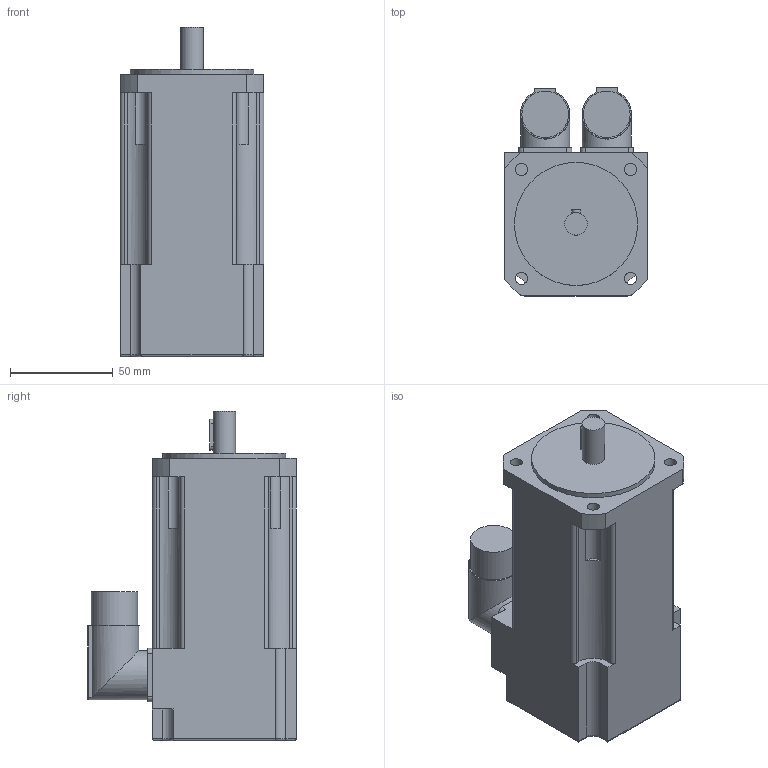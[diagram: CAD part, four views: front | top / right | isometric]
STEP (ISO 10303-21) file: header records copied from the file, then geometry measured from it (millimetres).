
FILE_DESCRIPTION(/* description */ (''),/* implementation_level */ '2;1');
FILE_NAME(/* name */ '\\Lafnas01\disegni\Archivi Lafert\3D\CAD 3D\MODELLI\Assiemi clienti\Serad\Modelli 3D Serad\B36Q\Encoder\Enc Without Brake\B36E2Qxx6ARx2033.ipt.stp',/* time_stamp */ '2015-09-07T10:49:24+02:00',/* author */ ('Pastrello Ylenia'),/* organization */ (''),/* preprocessor_version */ 'ST-DEVELOPER v15.6',/* originating_system */ 'Autodesk Inventor 2015',/* authorisation */ '');
FILE_SCHEMA (('AUTOMOTIVE_DESIGN { 1 0 10303 214 3 1 1 }'));
Length unit declared in the file: millimetre
Products named in the file (1): B36E2Qxx6ARx2033
Bounding box: 70 x 101.5 x 160.5 mm (x, y, z)
Volume: 667998.2 mm3; surface area: 57432.5 mm2
Topology: 1 solids, 1 shells, 121 faces, 322 edges, 210 vertices
Faces by surface type: plane 59, cylinder 58, torus 4
Full cylindrical faces by diameter (mm): 5.8 x4, 11 x1, 22.7 x2, 24 x2, 60 x1
Entity records: 3806 total; most frequent: CARTESIAN_POINT 678, DIRECTION 676, ORIENTED_EDGE 624, EDGE_CURVE 312, AXIS2_PLACEMENT_3D 244, VERTEX_POINT 210, LINE 188, VECTOR 188
